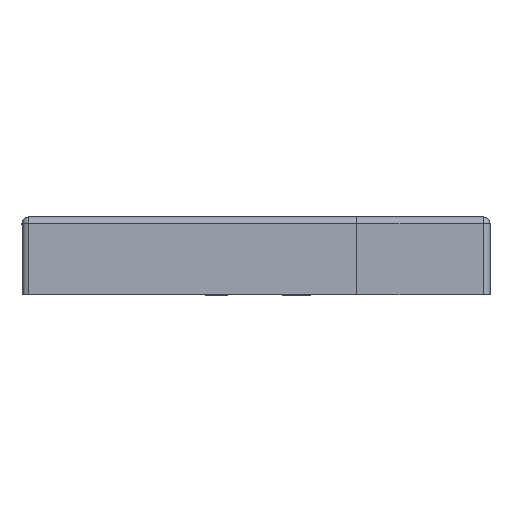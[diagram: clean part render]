
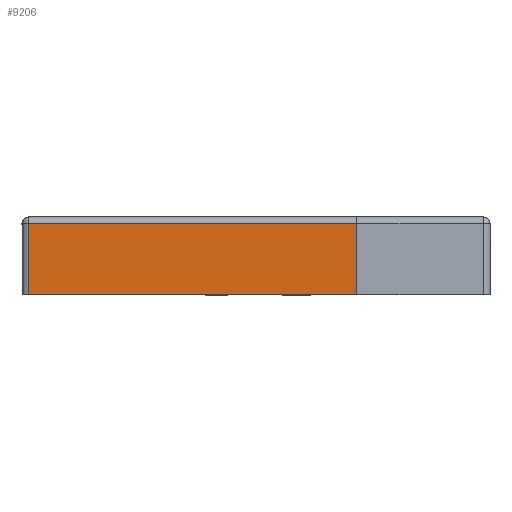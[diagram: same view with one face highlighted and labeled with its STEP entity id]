
A CAD part, left-side view. The second image highlights one B-rep face of the part: STEP entity #9206.
In plain terms, the highlighted planar face has unit normal (-1, 0, 0).
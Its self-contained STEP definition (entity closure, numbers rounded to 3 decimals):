
#2580 = VECTOR ( 'NONE', #8072, 1000. ) ;
#3323 = CARTESIAN_POINT ( 'NONE',  ( -77.025, 5.066, 111.547 ) ) ;
#6859 = LINE ( 'NONE', #13193, #19290 ) ;
#7763 = VERTEX_POINT ( 'NONE', #3323 ) ;
#7968 = ORIENTED_EDGE ( 'NONE', *, *, #13751, .F. ) ;
#8072 = DIRECTION ( 'NONE',  ( 0., 0., -1. ) ) ;
#8373 = DIRECTION ( 'NONE',  ( -1., 0., 0. ) ) ;
#8792 = CARTESIAN_POINT ( 'NONE',  ( -77.025, 76.566, 111.547 ) ) ;
#9019 = ORIENTED_EDGE ( 'NONE', *, *, #13150, .F. ) ;
#9206 = ADVANCED_FACE ( 'NONE', ( #35806 ), #27294, .T. ) ;
#9459 = VERTEX_POINT ( 'NONE', #28814 ) ;
#9785 = CARTESIAN_POINT ( 'NONE',  ( -77.025, 63.066, 127.047 ) ) ;
#10061 = LINE ( 'NONE', #30062, #2580 ) ;
#12094 = VERTEX_POINT ( 'NONE', #39641 ) ;
#13150 = EDGE_CURVE ( 'NONE', #12094, #31104, #21217, .T. ) ;
#13193 = CARTESIAN_POINT ( 'NONE',  ( -77.025, 63.066, 111.547 ) ) ;
#13751 = EDGE_CURVE ( 'NONE', #31104, #7763, #10061, .T. ) ;
#14741 = EDGE_LOOP ( 'NONE', ( #26456, #7968, #9019, #38250 ) ) ;
#16774 = EDGE_CURVE ( 'NONE', #9459, #7763, #6859, .T. ) ;
#19290 = VECTOR ( 'NONE', #19452, 1000. ) ;
#19452 = DIRECTION ( 'NONE',  ( 0., -1., 0. ) ) ;
#20678 = EDGE_CURVE ( 'NONE', #12094, #9459, #25823, .T. ) ;
#21217 = LINE ( 'NONE', #9785, #29592 ) ;
#22006 = CARTESIAN_POINT ( 'NONE',  ( -77.025, 5.066, 127.047 ) ) ;
#22688 = DIRECTION ( 'NONE',  ( 0., -1., 0. ) ) ;
#24540 = DIRECTION ( 'NONE',  ( 0., 0., 1. ) ) ;
#25823 = LINE ( 'NONE', #8792, #33255 ) ;
#26456 = ORIENTED_EDGE ( 'NONE', *, *, #16774, .T. ) ;
#27294 = PLANE ( 'NONE',  #36301 ) ;
#27844 = CARTESIAN_POINT ( 'NONE',  ( -77.025, 78.066, 111.547 ) ) ;
#28814 = CARTESIAN_POINT ( 'NONE',  ( -77.025, 76.566, 111.547 ) ) ;
#29592 = VECTOR ( 'NONE', #22688, 1000. ) ;
#30062 = CARTESIAN_POINT ( 'NONE',  ( -77.025, 5.066, 120.047 ) ) ;
#31104 = VERTEX_POINT ( 'NONE', #22006 ) ;
#33255 = VECTOR ( 'NONE', #41001, 1000. ) ;
#35806 = FACE_OUTER_BOUND ( 'NONE', #14741, .T. ) ;
#36301 = AXIS2_PLACEMENT_3D ( 'NONE', #27844, #8373, #24540 ) ;
#38250 = ORIENTED_EDGE ( 'NONE', *, *, #20678, .T. ) ;
#39641 = CARTESIAN_POINT ( 'NONE',  ( -77.025, 76.566, 127.047 ) ) ;
#41001 = DIRECTION ( 'NONE',  ( 0., 0., -1. ) ) ;
